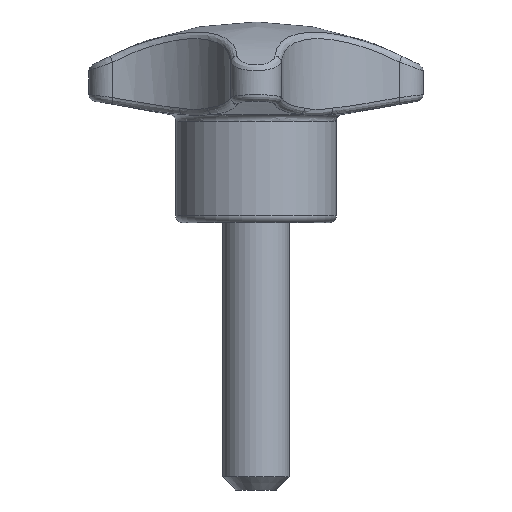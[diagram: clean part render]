
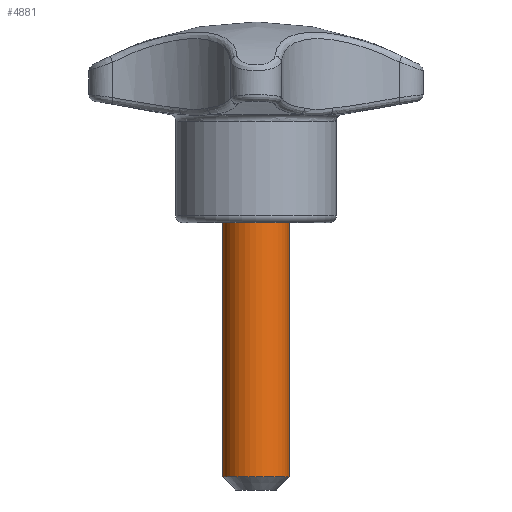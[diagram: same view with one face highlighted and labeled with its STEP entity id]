
A CAD part, front view. The second image highlights one B-rep face of the part: STEP entity #4881.
In plain terms, the highlighted cylindrical face has radius 2.5 mm (diameter 5 mm), a partial arc.
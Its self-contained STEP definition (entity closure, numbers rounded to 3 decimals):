
#2042 = CYLINDRICAL_SURFACE ( 'NONE', #2062, 2.5 ) ;
#2057 = DIRECTION ( 'NONE',  ( 0., 0., 1. ) ) ;
#2058 = VECTOR ( 'NONE', #2057, 1000. ) ;
#2059 = CARTESIAN_POINT ( 'NONE',  ( -2.5, 0., 8. ) ) ;
#2060 = LINE ( 'NONE', #2059, #2058 ) ;
#2062 = AXIS2_PLACEMENT_3D ( 'NONE', #2073, #2072, #2074 ) ;
#2063 = CIRCLE ( 'NONE', #2125, 2.5 ) ;
#2065 = FACE_OUTER_BOUND ( 'NONE', #2713, .T. ) ;
#2068 = CARTESIAN_POINT ( 'NONE',  ( 0., 0., 0. ) ) ;
#2070 = DIRECTION ( 'NONE',  ( 0., 0., 1. ) ) ;
#2071 = CARTESIAN_POINT ( 'NONE',  ( 2.5, 0., 0. ) ) ;
#2072 = DIRECTION ( 'NONE',  ( 0., 0., 1. ) ) ;
#2073 = CARTESIAN_POINT ( 'NONE',  ( 0., 0., 8. ) ) ;
#2074 = DIRECTION ( 'NONE',  ( -1., 0., 0. ) ) ;
#2124 = DIRECTION ( 'NONE',  ( -1., 0., 0. ) ) ;
#2125 = AXIS2_PLACEMENT_3D ( 'NONE', #2068, #2070, #2124 ) ;
#2656 = EDGE_CURVE ( 'NONE', #2736, #2706, #4093, .T. ) ;
#2706 = VERTEX_POINT ( 'NONE', #4562 ) ;
#2712 = ORIENTED_EDGE ( 'NONE', *, *, #2720, .T. ) ;
#2713 = EDGE_LOOP ( 'NONE', ( #3832, #2712, #4392, #4344 ) ) ;
#2720 = EDGE_CURVE ( 'NONE', #2706, #4895, #4601, .T. ) ;
#2733 = VERTEX_POINT ( 'NONE', #5091 ) ;
#2736 = VERTEX_POINT ( 'NONE', #4882 ) ;
#3832 = ORIENTED_EDGE ( 'NONE', *, *, #2656, .T. ) ;
#4063 = CARTESIAN_POINT ( 'NONE',  ( 0., 0., -19. ) ) ;
#4090 = DIRECTION ( 'NONE',  ( -1., 0., 0. ) ) ;
#4091 = DIRECTION ( 'NONE',  ( 0., 0., 1. ) ) ;
#4092 = AXIS2_PLACEMENT_3D ( 'NONE', #4063, #4091, #4090 ) ;
#4093 = CIRCLE ( 'NONE', #4092, 2.5 ) ;
#4344 = ORIENTED_EDGE ( 'NONE', *, *, #4509, .F. ) ;
#4392 = ORIENTED_EDGE ( 'NONE', *, *, #4885, .F. ) ;
#4509 = EDGE_CURVE ( 'NONE', #2736, #2733, #2060, .T. ) ;
#4562 = CARTESIAN_POINT ( 'NONE',  ( 2.5, 0., -19. ) ) ;
#4586 = DIRECTION ( 'NONE',  ( 0., 0., 1. ) ) ;
#4593 = VECTOR ( 'NONE', #4586, 1000. ) ;
#4594 = CARTESIAN_POINT ( 'NONE',  ( 2.5, 0., 8. ) ) ;
#4601 = LINE ( 'NONE', #4594, #4593 ) ;
#4881 = ADVANCED_FACE ( 'NONE', ( #2065 ), #2042, .T. ) ;
#4882 = CARTESIAN_POINT ( 'NONE',  ( -2.5, 0., -19. ) ) ;
#4885 = EDGE_CURVE ( 'NONE', #2733, #4895, #2063, .T. ) ;
#4895 = VERTEX_POINT ( 'NONE', #2071 ) ;
#5091 = CARTESIAN_POINT ( 'NONE',  ( -2.5, 0., 0. ) ) ;
